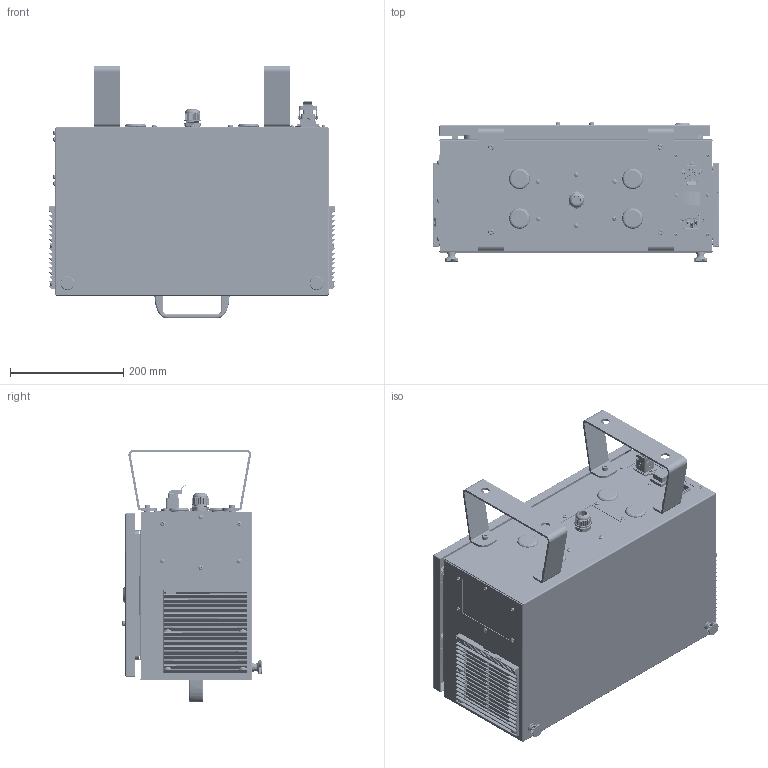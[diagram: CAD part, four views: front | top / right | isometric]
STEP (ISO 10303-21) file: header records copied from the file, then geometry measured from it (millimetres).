
FILE_DESCRIPTION (( 'STEP AP203' ), '1' );
FILE_NAME ('EC_諷秶嶄 ERB3E_B3_V1.0.STEP', '2024-10-23T09:20:35', ( '' ), ( '' ), 'SwSTEP 2.0', 'SolidWorks 2017', '' );
FILE_SCHEMA (( 'CONFIG_CONTROL_DESIGN' ));
Length unit declared in the file: millimetre
Products named in the file (33): hexagon nuts with flange gb_GB_HEXAGON_TYPE12 M8-N; 跡擘芛 KGB20-14-ST; cross recessed pan head screws gb_GB_CROSS_SCREWS_TYPE1 M4X6-6  H type-N; 萇埭脣釱 4301.0501; 藷郪璃; knurled thumb screws gb_GB_KNURLED_SCREWS_TYPE1 M8X12-N; hexagon socket head cap screws gb_GB_FASTENER_SCREWS_HSHCS M8X12-N; H3A-BK-1L_W; 盓殤; CDSF-2.5; 藷; 枑忒 UPFN26-117-B; 眊极-EC-B2; 躇猾啣01; hexagon socket head cap screws gb_GB_FASTENER_SCREWS_HSHCS M5X8-N; 6622.300; 躇猾啣02; cross recessed countersunk head screws gb1_GB_CROSS_SCREWS_TYPE4 M3X8-6.35  H type-N; 眊极; EC_諷秶嶄 ERB3E_B3_V1.0; 脣种; CDSF-1.5; 船型开关 KCD4 四脚两档带灯 红色 220V 30A; 连接器安装钣金-C-唯恩; 菁釱; 黑芛 MBP-25.4; HD-008-FC; 蝓蟈 HGZ-201-ST; cross recessed pan head screws gb_GB_CROSS_SCREWS_TYPE1 M3X6-6  H type-N; 蛌忕坶 MS705 H=25; hexagon socket head cap screws gb_GB_FASTENER_SCREWS_HSHCS M6X10-N; 峔塋蟀諉ん郪璃; 蟀諉え
Assembly tree (77 placements, depth 5):
  EC_諷秶嶄 ERB3E_B3_V1.0
    眊极-EC-B2
      眊极
      盓殤  x2
      藷郪璃
        藷
        蝓蟈 HGZ-201-ST  x2
          蟀諉え
          菁釱
          脣种
        蛌忕坶 MS705 H=25
      黑芛 MBP-25.4  x3
      躇猾啣01
      连接器安装钣金-C-唯恩
      枑忒 UPFN26-117-B
      躇猾啣02  x2
      hexagon socket head cap screws gb_GB_FASTENER_SCREWS_HSHCS M6X10-N  x10
      cross recessed pan head screws gb_GB_CROSS_SCREWS_TYPE1 M4X6-6  H type-N  x12
      knurled thumb screws gb_GB_KNURLED_SCREWS_TYPE1 M8X12-N  x2
      hexagon nuts with flange gb_GB_HEXAGON_TYPE12 M8-N  x2
      hexagon socket head cap screws gb_GB_FASTENER_SCREWS_HSHCS M8X12-N  x2
      cross recessed pan head screws gb_GB_CROSS_SCREWS_TYPE1 M3X6-6  H type-N  x6
    峔塋蟀諉ん郪璃
      CDSF-1.5  x2
      CDSF-2.5  x5
      H3A-BK-1L_W
      HD-008-FC
    萇埭脣釱 4301.0501
    跡擘芛 KGB20-14-ST
    6622.300  x2
    cross recessed pan head screws gb_GB_CROSS_SCREWS_TYPE1 M3X6-6  H type-N  x2
    cross recessed countersunk head screws gb1_GB_CROSS_SCREWS_TYPE4 M3X8-6.35  H type-N  x2
    黑芛 MBP-25.4
    船型开关 KCD4 四脚两档带灯 红色 220V 30A
    hexagon socket head cap screws gb_GB_FASTENER_SCREWS_HSHCS M5X8-N  x2
Bounding box: 505.9 x 245.9 x 447.12 mm (x, y, z)
Volume: 1757872.5 mm3; surface area: 1896864 mm2
Topology: 101 solids, 106 shells, 12392 faces, 33480 edges, 21399 vertices
Faces by surface type: plane 6743, cylinder 3073, bspline 2013, cone 430, torus 97, sphere 36
Entity records: 341756 total; most frequent: CARTESIAN_POINT 134611, ORIENTED_EDGE 47000, DIRECTION 34221, EDGE_CURVE 23500, VERTEX_POINT 15127, LINE 13187, VECTOR 13187, AXIS2_PLACEMENT_3D 10517
